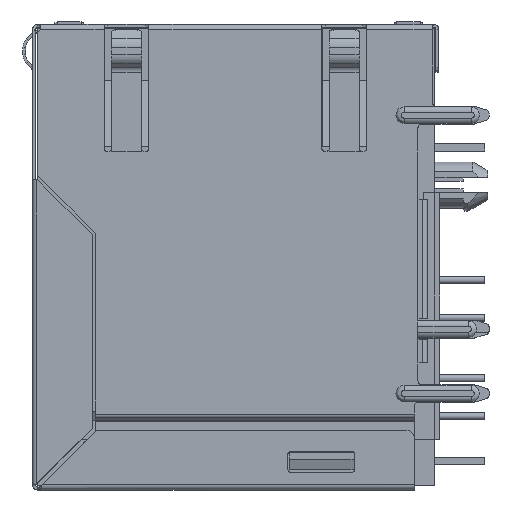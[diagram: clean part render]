
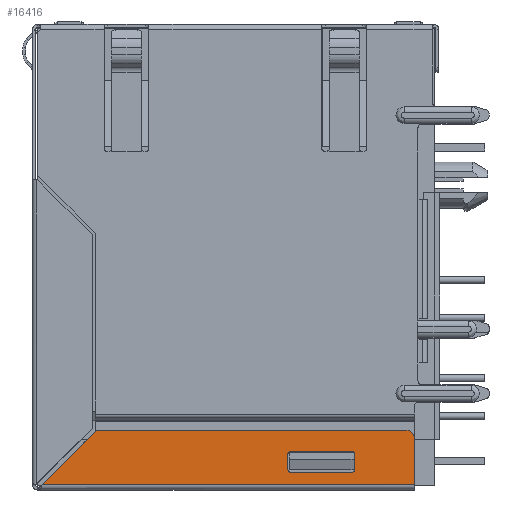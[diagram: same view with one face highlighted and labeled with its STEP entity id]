
A CAD part, left-side view. The second image highlights one B-rep face of the part: STEP entity #16416.
In plain terms, the highlighted planar face has unit normal (-1, 0, 0).
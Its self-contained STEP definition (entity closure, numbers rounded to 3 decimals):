
#974 = CARTESIAN_POINT ( 'NONE',  ( 128.53, -16.83, -28.5 ) ) ;
#1410 = VECTOR ( 'NONE', #97555, 1000. ) ;
#1933 = CARTESIAN_POINT ( 'NONE',  ( 128.53, -3.996, -26.93 ) ) ;
#2508 = CIRCLE ( 'NONE', #127725, 0.15 ) ;
#2969 = ORIENTED_EDGE ( 'NONE', *, *, #102918, .T. ) ;
#3725 = ORIENTED_EDGE ( 'NONE', *, *, #116125, .T. ) ;
#5678 = VECTOR ( 'NONE', #125464, 1000. ) ;
#5691 = CARTESIAN_POINT ( 'NONE',  ( 128.53, -25.31, -30.58 ) ) ;
#6058 = EDGE_CURVE ( 'NONE', #94583, #43152, #82749, .T. ) ;
#6649 = CARTESIAN_POINT ( 'NONE',  ( 128.53, -0.346, -30.58 ) ) ;
#6963 = ORIENTED_EDGE ( 'NONE', *, *, #117343, .F. ) ;
#7923 = VECTOR ( 'NONE', #66884, 1000. ) ;
#8064 = VERTEX_POINT ( 'NONE', #974 ) ;
#8810 = ORIENTED_EDGE ( 'NONE', *, *, #114441, .T. ) ;
#9827 = CARTESIAN_POINT ( 'NONE',  ( 128.53, -25.31, -27.43 ) ) ;
#12098 = CARTESIAN_POINT ( 'NONE',  ( 128.53, -21.16, -28.35 ) ) ;
#12573 = AXIS2_PLACEMENT_3D ( 'NONE', #126715, #50608, #113920 ) ;
#12949 = CARTESIAN_POINT ( 'NONE',  ( 128.53, -16.98, -28.35 ) ) ;
#14134 = LINE ( 'NONE', #122945, #122220 ) ;
#16416 = ADVANCED_FACE ( 'NONE', ( #57861, #47199 ), #36541, .T. ) ;
#16948 = DIRECTION ( 'NONE',  ( 0., 0., 1. ) ) ;
#18948 = DIRECTION ( 'NONE',  ( 1., 0., 0. ) ) ;
#19455 = VERTEX_POINT ( 'NONE', #6649 ) ;
#20020 = DIRECTION ( 'NONE',  ( 0., -0.707, 0.707 ) ) ;
#24916 = ORIENTED_EDGE ( 'NONE', *, *, #90807, .F. ) ;
#25614 = AXIS2_PLACEMENT_3D ( 'NONE', #139847, #18948, #42396 ) ;
#30071 = CIRCLE ( 'NONE', #25614, 0.15 ) ;
#32499 = AXIS2_PLACEMENT_3D ( 'NONE', #39017, #103035, #16948 ) ;
#33907 = EDGE_LOOP ( 'NONE', ( #2969, #8810, #73153, #130453, #134244 ) ) ;
#36541 = PLANE ( 'NONE',  #117848 ) ;
#38237 = DIRECTION ( 'NONE',  ( 0., 0., -1. ) ) ;
#38564 = ORIENTED_EDGE ( 'NONE', *, *, #57437, .T. ) ;
#39017 = CARTESIAN_POINT ( 'NONE',  ( 128.53, -24.81, -27.43 ) ) ;
#39359 = DIRECTION ( 'NONE',  ( 0., 0., 1. ) ) ;
#40139 = CARTESIAN_POINT ( 'NONE',  ( 128.53, -2.453, -26.93 ) ) ;
#40555 = CARTESIAN_POINT ( 'NONE',  ( 128.53, -24.81, -26.93 ) ) ;
#42396 = DIRECTION ( 'NONE',  ( 0., -1., 0. ) ) ;
#43110 = VERTEX_POINT ( 'NONE', #5691 ) ;
#43152 = VERTEX_POINT ( 'NONE', #40555 ) ;
#43463 = CARTESIAN_POINT ( 'NONE',  ( 128.53, -23.01, -28.35 ) ) ;
#45305 = VERTEX_POINT ( 'NONE', #9827 ) ;
#47199 = FACE_OUTER_BOUND ( 'NONE', #33907, .T. ) ;
#50008 = LINE ( 'NONE', #136813, #110103 ) ;
#50437 = LINE ( 'NONE', #58965, #139727 ) ;
#50608 = DIRECTION ( 'NONE',  ( 1., 0., 0. ) ) ;
#52064 = LINE ( 'NONE', #74778, #1410 ) ;
#57089 = VERTEX_POINT ( 'NONE', #12949 ) ;
#57437 = EDGE_CURVE ( 'NONE', #136658, #92830, #2508, .T. ) ;
#57861 = FACE_BOUND ( 'NONE', #88194, .T. ) ;
#57897 = EDGE_CURVE ( 'NONE', #86291, #132085, #107101, .T. ) ;
#58143 = ORIENTED_EDGE ( 'NONE', *, *, #136255, .F. ) ;
#58965 = CARTESIAN_POINT ( 'NONE',  ( 128.53, -25.31, -30.58 ) ) ;
#59557 = DIRECTION ( 'NONE',  ( 1., 0., 0. ) ) ;
#59789 = CIRCLE ( 'NONE', #32499, 0.5 ) ;
#61285 = CARTESIAN_POINT ( 'NONE',  ( 128.53, -0.346, -30.58 ) ) ;
#61991 = LINE ( 'NONE', #61285, #91978 ) ;
#62347 = VERTEX_POINT ( 'NONE', #114368 ) ;
#63922 = AXIS2_PLACEMENT_3D ( 'NONE', #76887, #89664, #120307 ) ;
#66884 = DIRECTION ( 'NONE',  ( 0., 1., 0. ) ) ;
#69235 = CARTESIAN_POINT ( 'NONE',  ( 128.53, -0.05, -30.58 ) ) ;
#69564 = DIRECTION ( 'NONE',  ( 0., -1., 0. ) ) ;
#69798 = EDGE_CURVE ( 'NONE', #136658, #103287, #112400, .T. ) ;
#73153 = ORIENTED_EDGE ( 'NONE', *, *, #89208, .F. ) ;
#74778 = CARTESIAN_POINT ( 'NONE',  ( 128.53, -16.83, -28.5 ) ) ;
#76887 = CARTESIAN_POINT ( 'NONE',  ( 128.53, -21.16, -28.5 ) ) ;
#81042 = DIRECTION ( 'NONE',  ( 0., -1., 0. ) ) ;
#82749 = LINE ( 'NONE', #40139, #5678 ) ;
#86291 = VERTEX_POINT ( 'NONE', #12098 ) ;
#87148 = EDGE_CURVE ( 'NONE', #62347, #103287, #30071, .T. ) ;
#88194 = EDGE_LOOP ( 'NONE', ( #108772, #24916, #117300, #116737, #38564, #6963, #3725, #58143 ) ) ;
#89208 = EDGE_CURVE ( 'NONE', #43152, #45305, #59789, .T. ) ;
#89664 = DIRECTION ( 'NONE',  ( 1., 0., 0. ) ) ;
#89809 = CIRCLE ( 'NONE', #12573, 0.15 ) ;
#90807 = EDGE_CURVE ( 'NONE', #62347, #132085, #50008, .T. ) ;
#91978 = VECTOR ( 'NONE', #20020, 1000. ) ;
#92830 = VERTEX_POINT ( 'NONE', #125802 ) ;
#93913 = CARTESIAN_POINT ( 'NONE',  ( 128.53, -21.31, -28.5 ) ) ;
#94583 = VERTEX_POINT ( 'NONE', #1933 ) ;
#97555 = DIRECTION ( 'NONE',  ( 0., 0., -1. ) ) ;
#102132 = CARTESIAN_POINT ( 'NONE',  ( 128.53, -21.16, -29.73 ) ) ;
#102918 = EDGE_CURVE ( 'NONE', #19455, #43110, #14134, .T. ) ;
#103035 = DIRECTION ( 'NONE',  ( 1., 0., 0. ) ) ;
#103287 = VERTEX_POINT ( 'NONE', #102132 ) ;
#103756 = CARTESIAN_POINT ( 'NONE',  ( 128.53, -16.98, -29.73 ) ) ;
#105228 = VECTOR ( 'NONE', #81042, 1000. ) ;
#107101 = CIRCLE ( 'NONE', #63922, 0.15 ) ;
#108772 = ORIENTED_EDGE ( 'NONE', *, *, #57897, .T. ) ;
#108887 = LINE ( 'NONE', #43463, #7923 ) ;
#110103 = VECTOR ( 'NONE', #39359, 1000. ) ;
#112400 = LINE ( 'NONE', #113096, #105228 ) ;
#112649 = DIRECTION ( 'NONE',  ( -1., 0., 0. ) ) ;
#113096 = CARTESIAN_POINT ( 'NONE',  ( 128.53, -20.38, -29.73 ) ) ;
#113920 = DIRECTION ( 'NONE',  ( 0., 1., 0. ) ) ;
#114333 = CARTESIAN_POINT ( 'NONE',  ( 128.53, -16.98, -29.58 ) ) ;
#114368 = CARTESIAN_POINT ( 'NONE',  ( 128.53, -21.31, -29.58 ) ) ;
#114441 = EDGE_CURVE ( 'NONE', #43110, #45305, #50437, .T. ) ;
#114465 = DIRECTION ( 'NONE',  ( 0., 0., 1. ) ) ;
#116125 = EDGE_CURVE ( 'NONE', #8064, #57089, #89809, .T. ) ;
#116737 = ORIENTED_EDGE ( 'NONE', *, *, #69798, .F. ) ;
#117300 = ORIENTED_EDGE ( 'NONE', *, *, #87148, .T. ) ;
#117343 = EDGE_CURVE ( 'NONE', #8064, #92830, #52064, .T. ) ;
#117848 = AXIS2_PLACEMENT_3D ( 'NONE', #69235, #112649, #124695 ) ;
#120307 = DIRECTION ( 'NONE',  ( 0., 0., 1. ) ) ;
#122220 = VECTOR ( 'NONE', #69564, 1000. ) ;
#122945 = CARTESIAN_POINT ( 'NONE',  ( 128.53, -0.346, -30.58 ) ) ;
#124695 = DIRECTION ( 'NONE',  ( 0., 0., 1. ) ) ;
#125464 = DIRECTION ( 'NONE',  ( 0., -1., 0. ) ) ;
#125802 = CARTESIAN_POINT ( 'NONE',  ( 128.53, -16.83, -29.58 ) ) ;
#126715 = CARTESIAN_POINT ( 'NONE',  ( 128.53, -16.98, -28.5 ) ) ;
#127725 = AXIS2_PLACEMENT_3D ( 'NONE', #114333, #59557, #38237 ) ;
#130453 = ORIENTED_EDGE ( 'NONE', *, *, #6058, .F. ) ;
#132085 = VERTEX_POINT ( 'NONE', #93913 ) ;
#134244 = ORIENTED_EDGE ( 'NONE', *, *, #136089, .F. ) ;
#136089 = EDGE_CURVE ( 'NONE', #19455, #94583, #61991, .T. ) ;
#136255 = EDGE_CURVE ( 'NONE', #86291, #57089, #108887, .T. ) ;
#136658 = VERTEX_POINT ( 'NONE', #103756 ) ;
#136813 = CARTESIAN_POINT ( 'NONE',  ( 128.53, -21.31, -29.58 ) ) ;
#139727 = VECTOR ( 'NONE', #114465, 1000. ) ;
#139847 = CARTESIAN_POINT ( 'NONE',  ( 128.53, -21.16, -29.58 ) ) ;
